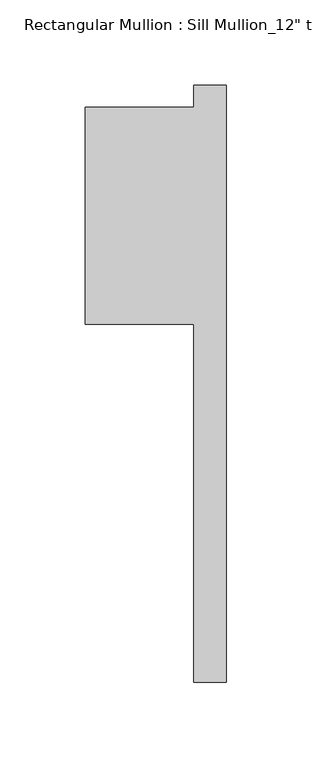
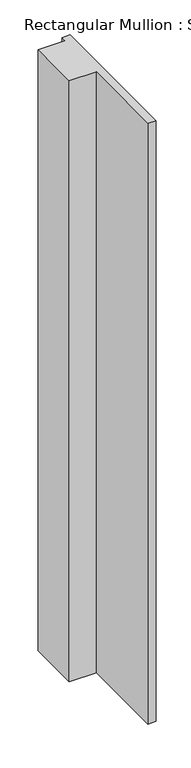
"""IFC4 building model written with IfcOpenShell, lengths in millimetres: member geometry."""

from ifc_helpers import new_model, si_unit, frame, origin, place, context, project, spatial, polyline, outline, extrude, source, transform, mapped, element, save


def member_48efd15b(model_context):
    return source(origin(), model_context, "Body", "SweptSolid", [
        extrude(outline(polyline([(-82.55, -50.8), (-82.55, 76.2), (-19.05, 76.2), (-19.05, 88.9), (0.0, 88.9), (0.0, -260.35), (-19.05, -260.35), (-19.05, -50.8), (-82.55, -50.8)])), frame((0.0, 0.0, -1485.1529412), z_axis=(0.0, 0.0, 1.0), x_axis=(1.0, 0.0, 0.0)), (0.0, 0.0, 1.0), 1485.1529412),
    ])


if __name__ == "__main__":
    model = new_model("IFC4")
    model_context = context("Model", 3, world=origin())
    ifc_project = project(units=[si_unit("LENGTHUNIT", "METRE", prefix="MILLI")], contexts=[model_context])
    site = spatial("IfcSite", under=ifc_project)
    building = spatial("IfcBuilding", under=site)
    placement = place(None, origin())
    member_shape = member_48efd15b(model_context)
    element("IfcMember", 1, ObjectType="Rectangular Mullion : Sill Mullion_12\" thick wall", at=placement, inside=building, context=model_context, shape_type="MappedRepresentation", body=[
        mapped(member_shape, transform((0.0, 0.0, 0.0), x_axis=(1.0, 0.0, 0.0), y_axis=(0.0, 1.0, 0.0), z_axis=(0.0, 0.0, 1.0))),
    ])
    save(model, "model.ifc")
